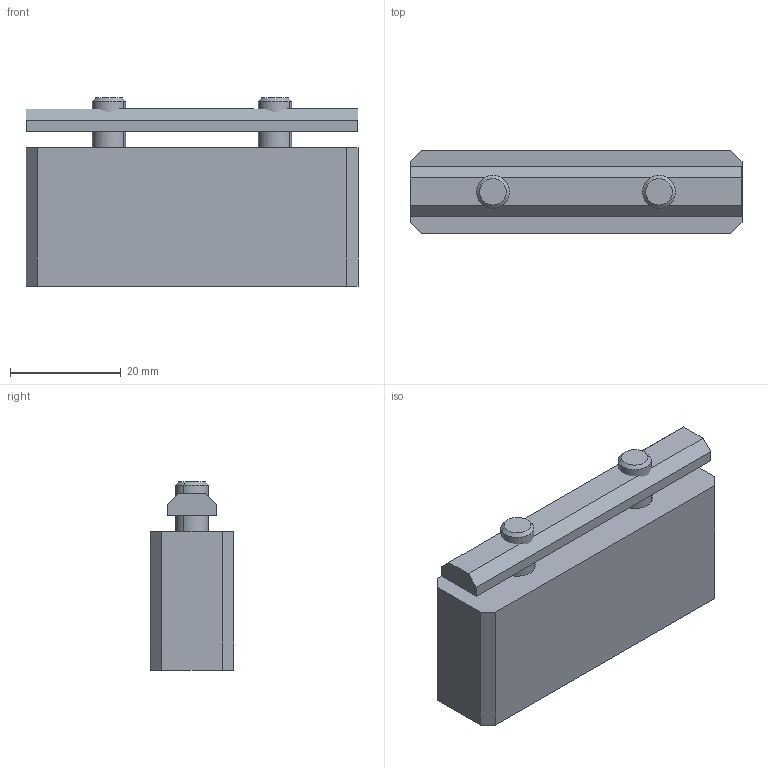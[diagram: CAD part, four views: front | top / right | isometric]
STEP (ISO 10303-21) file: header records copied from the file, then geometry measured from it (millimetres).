
FILE_DESCRIPTION (( 'STEP AP214' ), '1' );
FILE_NAME ('900.300.103.STEP', '2015-02-23T15:42:12', ( '' ), ( '' ), 'SwSTEP 2.0', 'SolidWorks 2012', '' );
FILE_SCHEMA (( 'AUTOMOTIVE_DESIGN' ));
Length unit declared in the file: millimetre
Products named in the file (4): VITI TCEI UNI 5931_M6x20 UNI 5931; 900.300.103; 084.302.059; 900.300.001
Assembly tree (4 placements, depth 2):
  900.300.103
    900.300.001
    084.302.059
    VITI TCEI UNI 5931_M6x20 UNI 5931  x2
Bounding box: 60 x 15 x 34 mm (x, y, z)
Volume: 22604.5 mm3; surface area: 9749.9 mm2
Topology: 4 solids, 4 shells, 70 faces, 162 edges, 104 vertices
Faces by surface type: plane 42, cylinder 20, torus 4, cone 4
Entity records: 1728 total; most frequent: DIRECTION 284, CARTESIAN_POINT 263, ORIENTED_EDGE 248, EDGE_CURVE 124, AXIS2_PLACEMENT_3D 101, VECTOR 82, LINE 82, VERTEX_POINT 80
